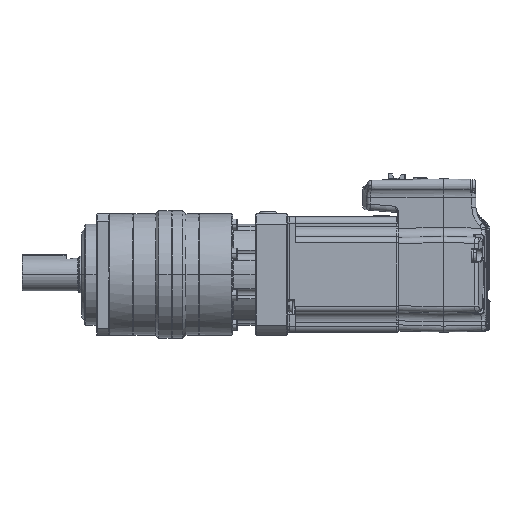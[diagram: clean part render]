
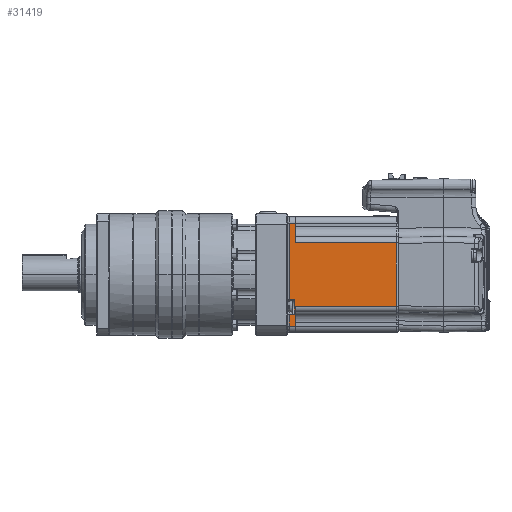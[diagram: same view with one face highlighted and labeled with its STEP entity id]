
A CAD part, left-side view. The second image highlights one B-rep face of the part: STEP entity #31419.
In plain terms, the highlighted planar face has unit normal (-1, 0, 0).
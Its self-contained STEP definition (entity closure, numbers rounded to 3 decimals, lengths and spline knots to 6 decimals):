
#651 = CARTESIAN_POINT ( 'NONE',  ( -0.028182, 0.007208, -0.0285 ) ) ;
#658 = PLANE ( 'NONE',  #43080 ) ;
#660 = DIRECTION ( 'NONE',  ( -1., 0., 0. ) ) ;
#661 = DIRECTION ( 'NONE',  ( 0., 0., 1. ) ) ;
#17423 = VERTEX_POINT ( 'NONE', #52062 ) ;
#17430 = VERTEX_POINT ( 'NONE', #52088 ) ;
#17438 = VERTEX_POINT ( 'NONE', #52118 ) ;
#17447 = VERTEX_POINT ( 'NONE', #52152 ) ;
#17451 = VERTEX_POINT ( 'NONE', #52167 ) ;
#17452 = VERTEX_POINT ( 'NONE', #52171 ) ;
#17454 = VERTEX_POINT ( 'NONE', #52178 ) ;
#17456 = VERTEX_POINT ( 'NONE', #52186 ) ;
#17459 = VERTEX_POINT ( 'NONE', #52198 ) ;
#17581 = VERTEX_POINT ( 'NONE', #52495 ) ;
#18420 = VERTEX_POINT ( 'NONE', #53924 ) ;
#18496 = VERTEX_POINT ( 'NONE', #54001 ) ;
#21277 = FACE_OUTER_BOUND ( 'NONE', #32653, .T. ) ;
#21597 = LINE ( 'NONE', #172140, #21599 ) ;
#21599 = VECTOR ( 'NONE', #172141, 1. ) ;
#21610 = LINE ( 'NONE', #172301, #21619 ) ;
#21619 = VECTOR ( 'NONE', #172302, 1. ) ;
#21717 = LINE ( 'NONE', #159140, #21720 ) ;
#21720 = VECTOR ( 'NONE', #159144, 1. ) ;
#21992 = LINE ( 'NONE', #160615, #22028 ) ;
#22006 = LINE ( 'NONE', #160602, #22009 ) ;
#22008 = LINE ( 'NONE', #160607, #22011 ) ;
#22009 = VECTOR ( 'NONE', #160605, 1. ) ;
#22011 = VECTOR ( 'NONE', #160609, 1. ) ;
#22013 = LINE ( 'NONE', #160623, #22016 ) ;
#22015 = LINE ( 'NONE', #160628, #22018 ) ;
#22016 = VECTOR ( 'NONE', #160626, 1. ) ;
#22017 = LINE ( 'NONE', #160632, #22020 ) ;
#22018 = VECTOR ( 'NONE', #160630, 1. ) ;
#22020 = VECTOR ( 'NONE', #160635, 1. ) ;
#22021 = LINE ( 'NONE', #160641, #22024 ) ;
#22024 = VECTOR ( 'NONE', #160644, 1. ) ;
#22028 = VECTOR ( 'NONE', #160651, 1. ) ;
#22029 = LINE ( 'NONE', #160660, #22032 ) ;
#22032 = VECTOR ( 'NONE', #160662, 1. ) ;
#22041 = LINE ( 'NONE', #160675, #22043 ) ;
#22043 = VECTOR ( 'NONE', #160692, 1. ) ;
#31419 = ADVANCED_FACE ( 'NONE', ( #21277 ), #658, .T. ) ;
#32653 = EDGE_LOOP ( 'NONE', ( #63185, #63189, #63195, #63199, #63204, #63208, #63214, #63217, #63223, #63227, #63232, #63236 ) ) ;
#32746 = EDGE_CURVE ( 'NONE', #18420, #17454, #21597, .T. ) ;
#32784 = EDGE_CURVE ( 'NONE', #18496, #18420, #21610, .T. ) ;
#32917 = EDGE_CURVE ( 'NONE', #18496, #17430, #21717, .T. ) ;
#33126 = EDGE_CURVE ( 'NONE', #17447, #17454, #22006, .T. ) ;
#33127 = EDGE_CURVE ( 'NONE', #17581, #17447, #22008, .T. ) ;
#33130 = EDGE_CURVE ( 'NONE', #17456, #17581, #22013, .T. ) ;
#33131 = EDGE_CURVE ( 'NONE', #17451, #17456, #22015, .T. ) ;
#33132 = EDGE_CURVE ( 'NONE', #17452, #17451, #22017, .T. ) ;
#33134 = EDGE_CURVE ( 'NONE', #17459, #17452, #22021, .T. ) ;
#33136 = EDGE_CURVE ( 'NONE', #17423, #17459, #21992, .T. ) ;
#33138 = EDGE_CURVE ( 'NONE', #17438, #17423, #22029, .T. ) ;
#33146 = EDGE_CURVE ( 'NONE', #17430, #17438, #22041, .T. ) ;
#43080 = AXIS2_PLACEMENT_3D ( 'NONE', #651, #660, #661 ) ;
#52062 = CARTESIAN_POINT ( 'NONE',  ( -0.028182, 0.061208, 0.0255 ) ) ;
#52088 = CARTESIAN_POINT ( 'NONE',  ( -0.028182, 0.058208, 0.01577 ) ) ;
#52118 = CARTESIAN_POINT ( 'NONE',  ( -0.028182, 0.058208, 0.0255 ) ) ;
#52152 = CARTESIAN_POINT ( 'NONE',  ( -0.028182, 0.058208, -0.0255 ) ) ;
#52167 = CARTESIAN_POINT ( 'NONE',  ( -0.028182, 0.058708, -0.0196 ) ) ;
#52171 = CARTESIAN_POINT ( 'NONE',  ( -0.028182, 0.058708, -0.0122 ) ) ;
#52178 = CARTESIAN_POINT ( 'NONE',  ( -0.028182, 0.058208, -0.01577 ) ) ;
#52186 = CARTESIAN_POINT ( 'NONE',  ( -0.028182, 0.061208, -0.0196 ) ) ;
#52198 = CARTESIAN_POINT ( 'NONE',  ( -0.028182, 0.061208, -0.0122 ) ) ;
#52495 = CARTESIAN_POINT ( 'NONE',  ( -0.028182, 0.061208, -0.0255 ) ) ;
#53924 = CARTESIAN_POINT ( 'NONE',  ( -0.028182, 0.008208, -0.01577 ) ) ;
#54001 = CARTESIAN_POINT ( 'NONE',  ( -0.028182, 0.008208, 0.01577 ) ) ;
#63185 = ORIENTED_EDGE ( 'NONE', *, *, #32784, .F. ) ;
#63189 = ORIENTED_EDGE ( 'NONE', *, *, #32917, .T. ) ;
#63195 = ORIENTED_EDGE ( 'NONE', *, *, #33146, .T. ) ;
#63199 = ORIENTED_EDGE ( 'NONE', *, *, #33138, .T. ) ;
#63204 = ORIENTED_EDGE ( 'NONE', *, *, #33136, .T. ) ;
#63208 = ORIENTED_EDGE ( 'NONE', *, *, #33134, .T. ) ;
#63214 = ORIENTED_EDGE ( 'NONE', *, *, #33132, .T. ) ;
#63217 = ORIENTED_EDGE ( 'NONE', *, *, #33131, .T. ) ;
#63223 = ORIENTED_EDGE ( 'NONE', *, *, #33130, .T. ) ;
#63227 = ORIENTED_EDGE ( 'NONE', *, *, #33127, .T. ) ;
#63232 = ORIENTED_EDGE ( 'NONE', *, *, #33126, .T. ) ;
#63236 = ORIENTED_EDGE ( 'NONE', *, *, #32746, .F. ) ;
#159140 = CARTESIAN_POINT ( 'NONE',  ( -0.028182, 0.007208, 0.01577 ) ) ;
#159144 = DIRECTION ( 'NONE',  ( 0., 1., 0. ) ) ;
#160602 = CARTESIAN_POINT ( 'NONE',  ( -0.028182, 0.058208, -0.0285 ) ) ;
#160605 = DIRECTION ( 'NONE',  ( 0., 0., 1. ) ) ;
#160607 = CARTESIAN_POINT ( 'NONE',  ( -0.028182, 0.007208, -0.0255 ) ) ;
#160609 = DIRECTION ( 'NONE',  ( 0., -1., 0. ) ) ;
#160615 = CARTESIAN_POINT ( 'NONE',  ( -0.028182, 0.061208, -0.0285 ) ) ;
#160623 = CARTESIAN_POINT ( 'NONE',  ( -0.028182, 0.061208, -0.0285 ) ) ;
#160626 = DIRECTION ( 'NONE',  ( 0., 0., -1. ) ) ;
#160628 = CARTESIAN_POINT ( 'NONE',  ( -0.028182, 0.007208, -0.0196 ) ) ;
#160630 = DIRECTION ( 'NONE',  ( 0., 1., 0. ) ) ;
#160632 = CARTESIAN_POINT ( 'NONE',  ( -0.028182, 0.058708, -0.0285 ) ) ;
#160635 = DIRECTION ( 'NONE',  ( 0., 0., -1. ) ) ;
#160641 = CARTESIAN_POINT ( 'NONE',  ( -0.028182, 0.007208, -0.0122 ) ) ;
#160644 = DIRECTION ( 'NONE',  ( 0., -1., 0. ) ) ;
#160651 = DIRECTION ( 'NONE',  ( 0., 0., -1. ) ) ;
#160660 = CARTESIAN_POINT ( 'NONE',  ( -0.028182, 0.007208, 0.0255 ) ) ;
#160662 = DIRECTION ( 'NONE',  ( 0., 1., 0. ) ) ;
#160675 = CARTESIAN_POINT ( 'NONE',  ( -0.028182, 0.058208, -0.0285 ) ) ;
#160692 = DIRECTION ( 'NONE',  ( 0., 0., 1. ) ) ;
#172140 = CARTESIAN_POINT ( 'NONE',  ( -0.028182, 0.058208, -0.01577 ) ) ;
#172141 = DIRECTION ( 'NONE',  ( 0., 1., 0. ) ) ;
#172301 = CARTESIAN_POINT ( 'NONE',  ( -0.028182, 0.008208, 0.01577 ) ) ;
#172302 = DIRECTION ( 'NONE',  ( 0., 0., -1. ) ) ;
